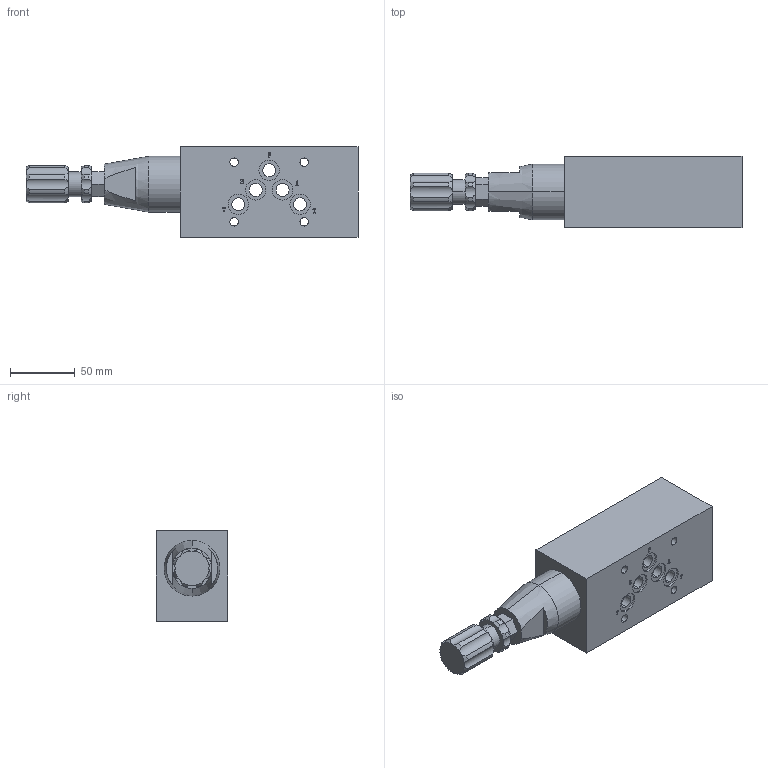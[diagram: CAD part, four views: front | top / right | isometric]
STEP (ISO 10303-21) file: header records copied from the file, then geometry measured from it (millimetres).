
FILE_DESCRIPTION (( 'STEP AP203' ), '1' );
FILE_NAME ('7DY-03B詁樓宒祛霜概.STEP', '2020-11-12T01:09:27', ( 'chen' ), ( '' ), 'SwSTEP 2.0', 'SolidWorks 2018', '' );
FILE_SCHEMA (( 'CONFIG_CONTROL_DESIGN' ));
Length unit declared in the file: millimetre
Products named in the file (1): 7DY-03B詁樓宒祛霜概
Bounding box: 256 x 55 x 70 mm (x, y, z)
Volume: 599278.3 mm3; surface area: 67537.7 mm2
Topology: 1 solids, 1 shells, 438 faces, 1207 edges, 804 vertices
Faces by surface type: plane 246, bspline 92, cylinder 66, cone 34
Entity records: 18346 total; most frequent: CARTESIAN_POINT 7658, ORIENTED_EDGE 2414, DIRECTION 1819, EDGE_CURVE 1207, VERTEX_POINT 804, VECTOR 785, LINE 785, AXIS2_PLACEMENT_3D 517
